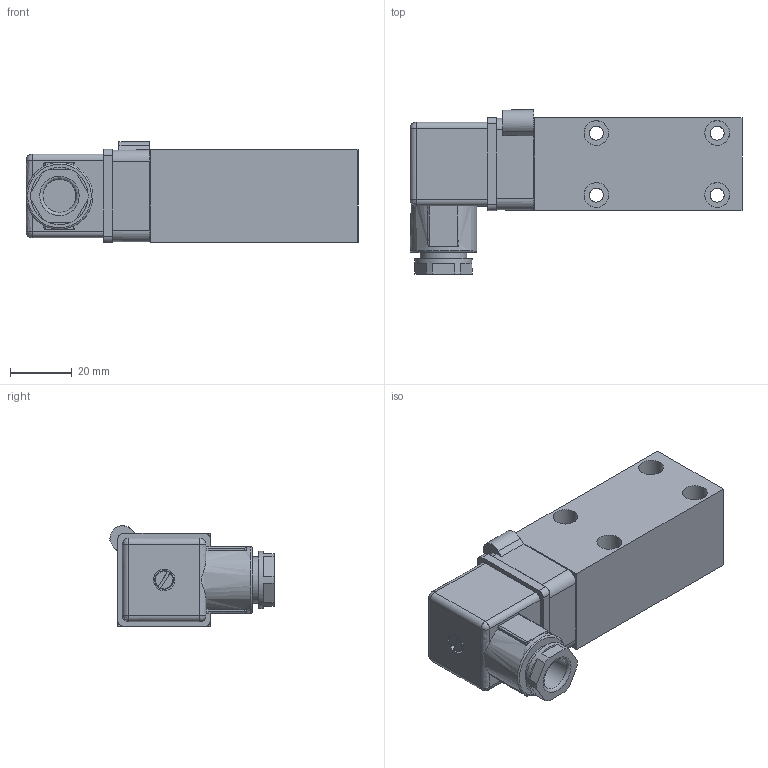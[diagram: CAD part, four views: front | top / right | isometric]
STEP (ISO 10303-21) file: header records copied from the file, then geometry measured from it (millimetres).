
FILE_DESCRIPTION((''),'2;1');
FILE_NAME('U:\Users\a.heinl\DG041_61.stp','2013-05-14T14:41:12',( 'User'),('SDRC'),'I-DEAS Master Series 9','UNIX','Yes');
FILE_SCHEMA(('AUTOMOTIVE_DESIGN { 1 0 10303 214 1 1 1 1 }'));
Length unit declared in the file: millimetre
Products named in the file (1): 11440200(318753)
Bounding box: 107.15 x 53.02 x 32.52 mm (x, y, z)
Volume: 94798.1 mm3; surface area: 18778.4 mm2
Topology: 1 solids, 3 shells, 141 faces, 332 edges, 210 vertices
Faces by surface type: bspline 141
Entity records: 4455 total; most frequent: CARTESIAN_POINT 2423, ORIENTED_EDGE 656, EDGE_CURVE 328, VERTEX_POINT 210, EDGE_LOOP 170, FACE_OUTER_BOUND 141, ADVANCED_FACE 141, B_SPLINE_CURVE_WITH_KNOTS 122
